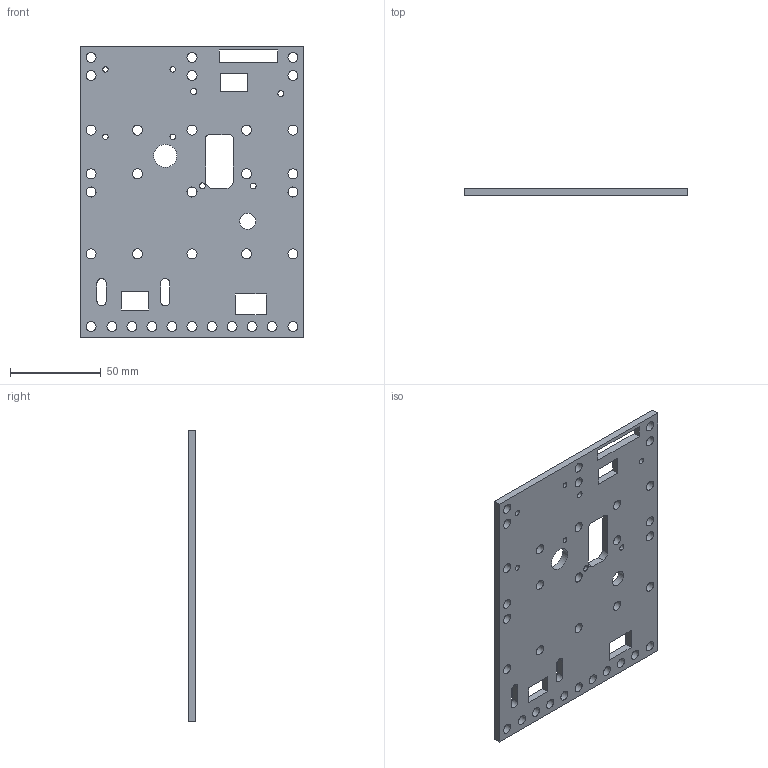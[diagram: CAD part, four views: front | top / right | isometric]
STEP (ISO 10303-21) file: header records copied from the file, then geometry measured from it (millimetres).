
FILE_DESCRIPTION(/* description */ ('STEP AP242 Edition 2','CAx-IF Rec.Pracs.---Representation and Presentation of Product Manufacturing Information (PMI)---4.0---2014-10-13','CAx-IF Rec.Pracs.---3D Tessellated Geometry---0.4---2014-09-14','2;1','CAx-IF Rec.Pracs.---User Defined Attributes---1.5---2016-08-15'),/* implementation_level */ '2;1');
FILE_NAME(/* name */ 'Assem2h - toppp',/* time_stamp */ '2025-12-01T14:50:39Z',/* author */ (''),/* organization */ (''),/* preprocessor_version */ 'ST-DEVELOPER v20',/* originating_system */ 'ONSHAPE BY PTC INC, 1.207',/* authorisation */ ' ');
FILE_SCHEMA (('AP242_MANAGED_MODEL_BASED_3D_ENGINEERING_MIM_LF { 1 0 10303 442 3 1 4 }'));
Length unit declared in the file: metre
Products named in the file (1): toppp
Bounding box: 123 x 4 x 160 mm (x, y, z)
Volume: 69321.2 mm3; surface area: 41422.9 mm2
Topology: 1 solids, 1 shells, 82 faces, 240 edges, 160 vertices
Faces by surface type: cylinder 52, plane 30
Full cylindrical faces by diameter (mm): 3 x4, 3.248 x1, 3.3 x1, 3.307 x1, 3.424 x1, 5.5 x34, 8.763 x1, 12.66 x1
Entity records: 2814 total; most frequent: DIRECTION 466, CARTESIAN_POINT 439, ORIENTED_EDGE 392, EDGE_LOOP 228, FACE_BOUND 228, EDGE_CURVE 196, AXIS2_PLACEMENT_3D 187, VERTEX_POINT 160
